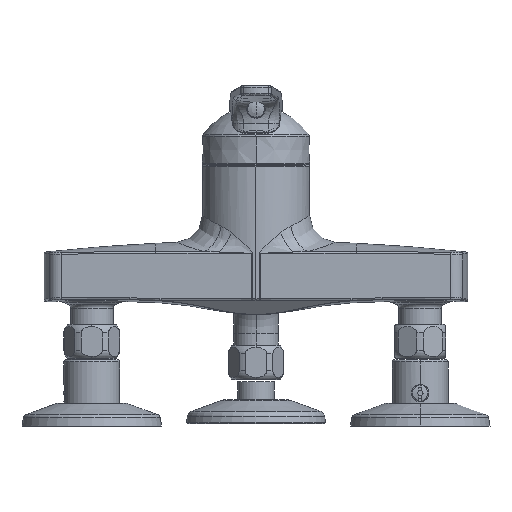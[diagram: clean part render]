
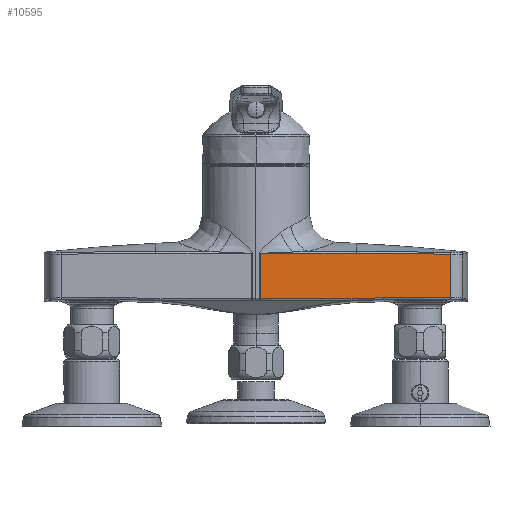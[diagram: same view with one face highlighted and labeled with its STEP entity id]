
A CAD part, front view. The second image highlights one B-rep face of the part: STEP entity #10595.
In plain terms, the highlighted planar face has unit normal (0.01, -1, 0).
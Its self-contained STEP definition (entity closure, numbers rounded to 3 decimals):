
#282=DIRECTION('',(1.,0.01,-0.001));
#283=VECTOR('',#282,32.021);
#284=CARTESIAN_POINT('',(58.695,-19.865,1.392));
#285=LINE('',#284,#283);
#286=CARTESIAN_POINT('',(44.786,-20.004,0.919));
#287=CARTESIAN_POINT('',(45.943,-19.993,0.998));
#288=CARTESIAN_POINT('',(48.258,-19.969,1.137));
#289=CARTESIAN_POINT('',(51.735,-19.935,1.286));
#290=CARTESIAN_POINT('',(55.215,-19.9,1.374));
#291=CARTESIAN_POINT('',(57.535,-19.876,1.393));
#292=CARTESIAN_POINT('',(58.695,-19.865,1.392));
#294=CARTESIAN_POINT('',(44.138,-20.011,0.896));
#295=CARTESIAN_POINT('',(44.204,-20.01,0.896));
#296=CARTESIAN_POINT('',(44.339,-20.009,0.897));
#297=CARTESIAN_POINT('',(44.555,-20.006,0.904));
#298=CARTESIAN_POINT('',(44.707,-20.005,0.913));
#299=CARTESIAN_POINT('',(44.786,-20.004,0.919));
#301=DIRECTION('',(1.,0.01,-0.004));
#302=VECTOR('',#301,41.928);
#303=CARTESIAN_POINT('',(2.213,-20.43,1.049));
#304=LINE('',#303,#302);
#305=DIRECTION('',(0.,0.,-1.));
#306=VECTOR('',#305,21.033);
#307=CARTESIAN_POINT('',(2.213,-20.43,22.083));
#308=LINE('',#307,#306);
#309=CARTESIAN_POINT('',(17.148,-20.281,22.087));
#310=CARTESIAN_POINT('',(15.454,-20.298,22.089));
#311=CARTESIAN_POINT('',(12.09,-20.331,22.092));
#312=CARTESIAN_POINT('',(7.12,-20.381,22.091));
#313=CARTESIAN_POINT('',(3.842,-20.414,22.086));
#314=CARTESIAN_POINT('',(2.213,-20.43,22.083));
#316=CARTESIAN_POINT('',(46.667,-19.985,22.024));
#317=CARTESIAN_POINT('',(43.552,-20.016,22.033));
#318=CARTESIAN_POINT('',(37.212,-20.08,22.05));
#319=CARTESIAN_POINT('',(27.372,-20.178,22.071));
#320=CARTESIAN_POINT('',(20.593,-20.246,22.082));
#321=CARTESIAN_POINT('',(17.148,-20.281,22.087));
#323=CARTESIAN_POINT('',(90.714,-19.544,21.723));
#324=CARTESIAN_POINT('',(86.501,-19.586,21.773));
#325=CARTESIAN_POINT('',(77.623,-19.675,21.862));
#326=CARTESIAN_POINT('',(63.014,-19.822,21.962));
#327=CARTESIAN_POINT('',(52.275,-19.929,22.007));
#328=CARTESIAN_POINT('',(46.667,-19.985,22.024));
#330=DIRECTION('',(0.,0.,-1.));
#331=VECTOR('',#330,20.347);
#332=CARTESIAN_POINT('',(90.714,-19.544,21.723));
#333=LINE('',#332,#331);
#344=CARTESIAN_POINT('',(90.714,-19.544,1.376));
#602=CARTESIAN_POINT('',(2.213,-20.43,22.083));
#9581=VERTEX_POINT('',#316);
#9582=VERTEX_POINT('',#321);
#9585=VERTEX_POINT('',#323);
#9597=VERTEX_POINT('',#602);
#9614=VERTEX_POINT('',#344);
#9616=CARTESIAN_POINT('',(58.695,-19.865,1.392));
#9617=VERTEX_POINT('',#9616);
#9620=VERTEX_POINT('',#286);
#9622=VERTEX_POINT('',#294);
#9624=CARTESIAN_POINT('',(2.213,-20.43,1.049));
#9625=VERTEX_POINT('',#9624);
#10571=CARTESIAN_POINT('',(95.126,-19.5,0.));
#10572=DIRECTION('',(-0.01,1.,0.));
#10573=DIRECTION('',(-1.,-0.01,0.));
#10574=AXIS2_PLACEMENT_3D('',#10571,#10572,#10573);
#10575=PLANE('',#10574);
#10577=ORIENTED_EDGE('',*,*,#10576,.F.);
#10578=ORIENTED_EDGE('',*,*,#10549,.F.);
#10580=ORIENTED_EDGE('',*,*,#10579,.F.);
#10582=ORIENTED_EDGE('',*,*,#10581,.F.);
#10584=ORIENTED_EDGE('',*,*,#10583,.F.);
#10586=ORIENTED_EDGE('',*,*,#10585,.F.);
#10588=ORIENTED_EDGE('',*,*,#10587,.F.);
#10590=ORIENTED_EDGE('',*,*,#10589,.F.);
#10592=ORIENTED_EDGE('',*,*,#10591,.T.);
#10593=EDGE_LOOP('',(#10577,#10578,#10580,#10582,#10584,#10586,#10588,#10590,
#10592));
#10594=FACE_OUTER_BOUND('',#10593,.F.);
#293=B_SPLINE_CURVE_WITH_KNOTS('',3,(#286,#287,#288,#289,#290,#291,#292),
.UNSPECIFIED.,.F.,.F.,(4,1,1,1,4),(0.,0.25,0.5,0.75,1.),
.UNSPECIFIED.);
#300=B_SPLINE_CURVE_WITH_KNOTS('',3,(#294,#295,#296,#297,#298,#299),
.UNSPECIFIED.,.F.,.F.,(4,1,1,4),(0.,0.333,0.667,1.),
.UNSPECIFIED.);
#315=B_SPLINE_CURVE_WITH_KNOTS('',3,(#309,#310,#311,#312,#313,#314),
.UNSPECIFIED.,.F.,.F.,(4,1,1,4),(0.,0.333,0.667,1.),
.UNSPECIFIED.);
#322=B_SPLINE_CURVE_WITH_KNOTS('',3,(#316,#317,#318,#319,#320,#321),
.UNSPECIFIED.,.F.,.F.,(4,1,1,4),(0.,0.333,0.667,1.),
.UNSPECIFIED.);
#329=B_SPLINE_CURVE_WITH_KNOTS('',3,(#323,#324,#325,#326,#327,#328),
.UNSPECIFIED.,.F.,.F.,(4,1,1,4),(0.,0.333,0.667,1.),
.UNSPECIFIED.);
#10549=EDGE_CURVE('',#9620,#9617,#293,.T.);
#10576=EDGE_CURVE('',#9617,#9614,#285,.T.);
#10579=EDGE_CURVE('',#9622,#9620,#300,.T.);
#10581=EDGE_CURVE('',#9625,#9622,#304,.T.);
#10583=EDGE_CURVE('',#9597,#9625,#308,.T.);
#10585=EDGE_CURVE('',#9582,#9597,#315,.T.);
#10587=EDGE_CURVE('',#9581,#9582,#322,.T.);
#10589=EDGE_CURVE('',#9585,#9581,#329,.T.);
#10591=EDGE_CURVE('',#9585,#9614,#333,.T.);
#10595=ADVANCED_FACE('',(#10594),#10575,.F.);
